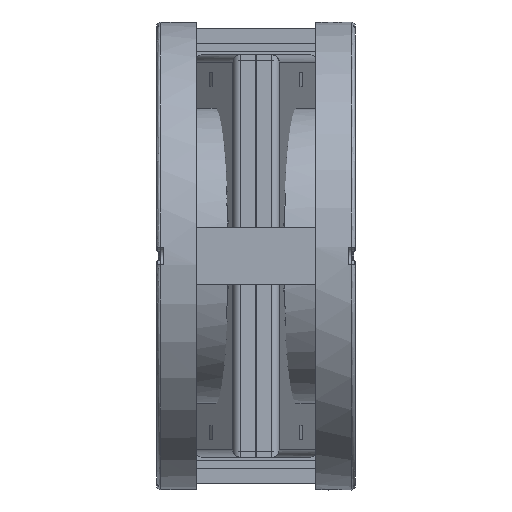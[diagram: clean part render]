
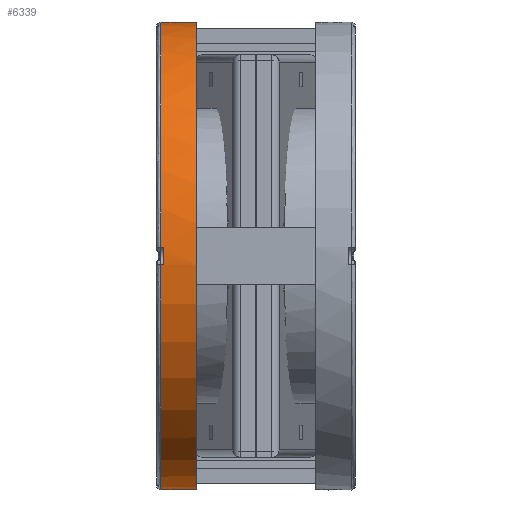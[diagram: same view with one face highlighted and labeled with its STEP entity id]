
A CAD part, front view. The second image highlights one B-rep face of the part: STEP entity #6339.
In plain terms, the highlighted cylindrical face has radius 82.4 mm (diameter 164.8 mm), a full revolution.
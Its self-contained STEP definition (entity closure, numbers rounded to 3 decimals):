
#3592=ELLIPSE('',#25349,82.715,82.4);
#3876=FACE_BOUND('',#9092,.T.);
#3877=FACE_BOUND('',#9093,.T.);
#4883=CYLINDRICAL_SURFACE('',#25350,82.4);
#5294=CIRCLE('',#25344,82.4);
#5295=CIRCLE('',#25345,82.4);
#5296=CIRCLE('',#25346,82.4);
#5297=CIRCLE('',#25347,82.4);
#5298=CIRCLE('',#25348,82.4);
#6339=ADVANCED_FACE('',(#3876,#3877),#4883,.T.);
#9092=EDGE_LOOP('',(#14798,#14799,#14800,#14801,#14802,#14803,#14804,#14805));
#9093=EDGE_LOOP('',(#14806,#14807));
#10733=LINE('',#49741,#12315);
#10734=LINE('',#49745,#12316);
#10735=LINE('',#49749,#12317);
#10736=LINE('',#49753,#12318);
#12315=VECTOR('',#27605,1.);
#12316=VECTOR('',#27608,1.);
#12317=VECTOR('',#27611,1.);
#12318=VECTOR('',#27614,1.);
#14798=ORIENTED_EDGE('',*,*,#22279,.T.);
#14799=ORIENTED_EDGE('',*,*,#22280,.T.);
#14800=ORIENTED_EDGE('',*,*,#22281,.T.);
#14801=ORIENTED_EDGE('',*,*,#22282,.T.);
#14802=ORIENTED_EDGE('',*,*,#22283,.T.);
#14803=ORIENTED_EDGE('',*,*,#22284,.T.);
#14804=ORIENTED_EDGE('',*,*,#22285,.T.);
#14805=ORIENTED_EDGE('',*,*,#22286,.T.);
#14806=ORIENTED_EDGE('',*,*,#22287,.F.);
#14807=ORIENTED_EDGE('',*,*,#22288,.T.);
#20010=VERTEX_POINT('',#49739);
#20011=VERTEX_POINT('',#49740);
#20012=VERTEX_POINT('',#49742);
#20013=VERTEX_POINT('',#49744);
#20014=VERTEX_POINT('',#49746);
#20015=VERTEX_POINT('',#49748);
#20016=VERTEX_POINT('',#49750);
#20017=VERTEX_POINT('',#49752);
#20018=VERTEX_POINT('',#49755);
#20019=VERTEX_POINT('',#49756);
#22279=EDGE_CURVE('',#20010,#20011,#5294,.T.);
#22280=EDGE_CURVE('',#20011,#20012,#10733,.T.);
#22281=EDGE_CURVE('',#20012,#20013,#5295,.T.);
#22282=EDGE_CURVE('',#20013,#20014,#10734,.T.);
#22283=EDGE_CURVE('',#20014,#20015,#5296,.T.);
#22284=EDGE_CURVE('',#20015,#20016,#10735,.T.);
#22285=EDGE_CURVE('',#20016,#20017,#5297,.T.);
#22286=EDGE_CURVE('',#20017,#20010,#10736,.T.);
#22287=EDGE_CURVE('',#20018,#20019,#5298,.T.);
#22288=EDGE_CURVE('',#20018,#20019,#3592,.T.);
#25344=AXIS2_PLACEMENT_3D('',#49738,#27603,#27604);
#25345=AXIS2_PLACEMENT_3D('',#49743,#27606,#27607);
#25346=AXIS2_PLACEMENT_3D('',#49747,#27609,#27610);
#25347=AXIS2_PLACEMENT_3D('',#49751,#27612,#27613);
#25348=AXIS2_PLACEMENT_3D('',#49754,#27615,#27616);
#25349=AXIS2_PLACEMENT_3D('',#49757,#27617,#27618);
#25350=AXIS2_PLACEMENT_3D('',#49758,#27619,#27620);
#27603=DIRECTION('',(0.,-1.,0.));
#27604=DIRECTION('',(0.999,0.,0.036));
#27605=DIRECTION('',(0.,-1.,0.));
#27606=DIRECTION('',(0.,-1.,0.));
#27607=DIRECTION('',(-0.999,0.,0.036));
#27608=DIRECTION('',(0.,1.,0.));
#27609=DIRECTION('',(0.,-1.,0.));
#27610=DIRECTION('',(-0.999,0.,-0.036));
#27611=DIRECTION('',(0.,-1.,0.));
#27612=DIRECTION('',(0.,-1.,0.));
#27613=DIRECTION('',(0.999,0.,-0.036));
#27614=DIRECTION('',(0.,1.,0.));
#27615=DIRECTION('',(0.,-1.,0.));
#27616=DIRECTION('',(-1.,0.,0.));
#27617=DIRECTION('',(-0.087,0.996,0.));
#27618=DIRECTION('',(-0.996,-0.087,0.));
#27619=DIRECTION('',(0.,-1.,0.));
#27620=DIRECTION('',(-1.,0.,0.));
#49738=CARTESIAN_POINT('',(0.,12.5,0.));
#49739=CARTESIAN_POINT('',(82.345,12.5,3.));
#49740=CARTESIAN_POINT('',(-82.345,12.5,3.));
#49741=CARTESIAN_POINT('',(-82.345,12.5,3.));
#49742=CARTESIAN_POINT('',(-82.345,11.5,3.));
#49743=CARTESIAN_POINT('',(0.,11.5,0.));
#49744=CARTESIAN_POINT('',(-82.345,11.5,-3.));
#49745=CARTESIAN_POINT('',(-82.345,11.5,-3.));
#49746=CARTESIAN_POINT('',(-82.345,12.5,-3.));
#49747=CARTESIAN_POINT('',(0.,12.5,0.));
#49748=CARTESIAN_POINT('',(82.345,12.5,-3.));
#49749=CARTESIAN_POINT('',(82.345,12.5,-3.));
#49750=CARTESIAN_POINT('',(82.345,11.5,-3.));
#49751=CARTESIAN_POINT('',(0.,11.5,0.));
#49752=CARTESIAN_POINT('',(82.345,11.5,3.));
#49753=CARTESIAN_POINT('',(82.345,11.5,3.));
#49754=CARTESIAN_POINT('',(0.,0.,
0.));
#49755=CARTESIAN_POINT('',(76.47,0.,30.692));
#49756=CARTESIAN_POINT('',(76.47,0.,-30.692));
#49757=CARTESIAN_POINT('',(0.,-6.69,0.));
#49758=CARTESIAN_POINT('',(0.,14.,0.));
